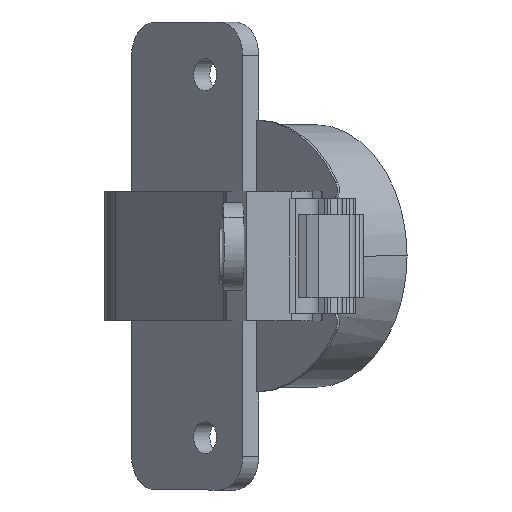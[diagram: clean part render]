
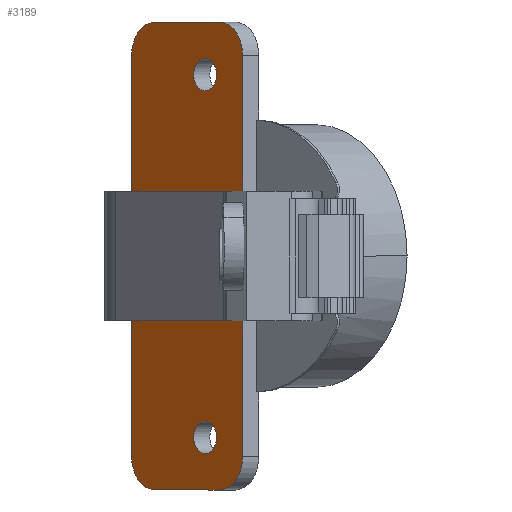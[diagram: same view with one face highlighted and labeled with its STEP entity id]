
A CAD part, left-side view. The second image highlights one B-rep face of the part: STEP entity #3189.
In plain terms, the highlighted planar face has unit normal (-0.701, 0.713, 0).
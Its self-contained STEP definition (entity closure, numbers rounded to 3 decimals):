
#7 = VERTEX_POINT ( 'NONE', #1892 ) ;
#44 = EDGE_LOOP ( 'NONE', ( #719, #1108 ) ) ;
#47 = EDGE_CURVE ( 'NONE', #460, #3172, #1304, .T. ) ;
#201 = CIRCLE ( 'NONE', #3454, 4.446 ) ;
#254 = DIRECTION ( 'NONE',  ( -0.701, 0.713, 0. ) ) ;
#268 = FACE_BOUND ( 'NONE', #3042, .T. ) ;
#304 = CARTESIAN_POINT ( 'NONE',  ( 13.393, 4.064, -26.536 ) ) ;
#316 = VERTEX_POINT ( 'NONE', #3168 ) ;
#332 = LINE ( 'NONE', #979, #3170 ) ;
#339 = DIRECTION ( 'NONE',  ( -0.713, -0.701, 0. ) ) ;
#364 = CARTESIAN_POINT ( 'NONE',  ( 4.552, -4.629, 30.982 ) ) ;
#366 = EDGE_CURVE ( 'NONE', #3474, #2059, #1860, .T. ) ;
#385 = VERTEX_POINT ( 'NONE', #3161 ) ;
#397 = CARTESIAN_POINT ( 'NONE',  ( 13.393, 4.064, 30.982 ) ) ;
#406 = VECTOR ( 'NONE', #3289, 1000. ) ;
#433 = DIRECTION ( 'NONE',  ( 0.713, 0.701, 0. ) ) ;
#438 = DIRECTION ( 'NONE',  ( -0.713, -0.701, 0. ) ) ;
#440 = AXIS2_PLACEMENT_3D ( 'NONE', #4291, #1229, #3936 ) ;
#460 = VERTEX_POINT ( 'NONE', #906 ) ;
#563 = AXIS2_PLACEMENT_3D ( 'NONE', #3818, #1773, #3772 ) ;
#569 = LINE ( 'NONE', #2668, #406 ) ;
#587 = ORIENTED_EDGE ( 'NONE', *, *, #1434, .T. ) ;
#604 = CARTESIAN_POINT ( 'NONE',  ( 3.84, -5.33, -8.6 ) ) ;
#637 = CIRCLE ( 'NONE', #563, 2.15 ) ;
#694 = VERTEX_POINT ( 'NONE', #1640 ) ;
#706 = ORIENTED_EDGE ( 'NONE', *, *, #871, .T. ) ;
#719 = ORIENTED_EDGE ( 'NONE', *, *, #47, .F. ) ;
#803 = LINE ( 'NONE', #1152, #3461 ) ;
#848 = CIRCLE ( 'NONE', #1492, 4.446 ) ;
#849 = CARTESIAN_POINT ( 'NONE',  ( 10.223, 0.947, 8.6 ) ) ;
#871 = EDGE_CURVE ( 'NONE', #1675, #316, #3345, .T. ) ;
#890 = VECTOR ( 'NONE', #3236, 1000. ) ;
#906 = CARTESIAN_POINT ( 'NONE',  ( 15.273, 5.913, 26.15 ) ) ;
#959 = CARTESIAN_POINT ( 'NONE',  ( 22.002, 12.529, 26.536 ) ) ;
#979 = CARTESIAN_POINT ( 'NONE',  ( 10.223, 0.947, 0. ) ) ;
#1010 = ORIENTED_EDGE ( 'NONE', *, *, #3899, .F. ) ;
#1028 = DIRECTION ( 'NONE',  ( 0., 0., 1. ) ) ;
#1034 = DIRECTION ( 'NONE',  ( -0.713, -0.701, 0. ) ) ;
#1096 = ORIENTED_EDGE ( 'NONE', *, *, #4043, .F. ) ;
#1108 = ORIENTED_EDGE ( 'NONE', *, *, #2951, .F. ) ;
#1152 = CARTESIAN_POINT ( 'NONE',  ( 21.12, 11.662, 34.339 ) ) ;
#1180 = DIRECTION ( 'NONE',  ( -0.701, 0.713, 0. ) ) ;
#1229 = DIRECTION ( 'NONE',  ( -0.701, 0.713, 0. ) ) ;
#1301 = EDGE_LOOP ( 'NONE', ( #1804, #1543, #3717, #1653, #3841, #706, #1096, #2605, #3919, #3388, #587, #3542 ) ) ;
#1304 = CIRCLE ( 'NONE', #440, 2.15 ) ;
#1339 = AXIS2_PLACEMENT_3D ( 'NONE', #3457, #3780, #2019 ) ;
#1434 = EDGE_CURVE ( 'NONE', #3699, #3434, #3193, .T. ) ;
#1492 = AXIS2_PLACEMENT_3D ( 'NONE', #1826, #1798, #1731 ) ;
#1515 = EDGE_CURVE ( 'NONE', #3434, #7, #2320, .T. ) ;
#1530 = CARTESIAN_POINT ( 'NONE',  ( 15.273, 5.913, -24. ) ) ;
#1543 = ORIENTED_EDGE ( 'NONE', *, *, #2135, .T. ) ;
#1584 = CARTESIAN_POINT ( 'NONE',  ( 10.223, 0.947, 0. ) ) ;
#1607 = DIRECTION ( 'NONE',  ( -0.713, -0.701, 0. ) ) ;
#1639 = VERTEX_POINT ( 'NONE', #397 ) ;
#1640 = CARTESIAN_POINT ( 'NONE',  ( 15.273, 5.913, -21.85 ) ) ;
#1653 = ORIENTED_EDGE ( 'NONE', *, *, #4098, .T. ) ;
#1675 = VERTEX_POINT ( 'NONE', #2430 ) ;
#1731 = DIRECTION ( 'NONE',  ( -0.713, -0.701, 0. ) ) ;
#1768 = CARTESIAN_POINT ( 'NONE',  ( 22.002, 12.529, -30.982 ) ) ;
#1773 = DIRECTION ( 'NONE',  ( -0.701, 0.713, 0. ) ) ;
#1774 = VERTEX_POINT ( 'NONE', #849 ) ;
#1798 = DIRECTION ( 'NONE',  ( -0.701, 0.713, 0. ) ) ;
#1804 = ORIENTED_EDGE ( 'NONE', *, *, #2185, .F. ) ;
#1826 = CARTESIAN_POINT ( 'NONE',  ( 13.393, 4.064, -26.536 ) ) ;
#1860 = LINE ( 'NONE', #2444, #3975 ) ;
#1871 = CARTESIAN_POINT ( 'NONE',  ( 15.273, 5.913, -24. ) ) ;
#1882 = DIRECTION ( 'NONE',  ( -0.713, -0.701, 0. ) ) ;
#1892 = CARTESIAN_POINT ( 'NONE',  ( 21.12, 11.662, -8.6 ) ) ;
#1951 = FACE_BOUND ( 'NONE', #44, .T. ) ;
#2007 = DIRECTION ( 'NONE',  ( 0., 0., 1. ) ) ;
#2019 = DIRECTION ( 'NONE',  ( -0.713, -0.701, 0. ) ) ;
#2029 = CIRCLE ( 'NONE', #4143, 2.15 ) ;
#2059 = VERTEX_POINT ( 'NONE', #1768 ) ;
#2135 = EDGE_CURVE ( 'NONE', #385, #1774, #4061, .T. ) ;
#2185 = EDGE_CURVE ( 'NONE', #385, #7, #803, .T. ) ;
#2226 = CARTESIAN_POINT ( 'NONE',  ( 13.393, 4.064, -30.982 ) ) ;
#2267 = CARTESIAN_POINT ( 'NONE',  ( 22.002, 12.529, -26.536 ) ) ;
#2320 = LINE ( 'NONE', #604, #3143 ) ;
#2337 = PLANE ( 'NONE',  #2940 ) ;
#2341 = DIRECTION ( 'NONE',  ( 0.713, 0.701, 0. ) ) ;
#2363 = EDGE_CURVE ( 'NONE', #1675, #1639, #2609, .T. ) ;
#2386 = EDGE_CURVE ( 'NONE', #3351, #2059, #201, .T. ) ;
#2395 = CIRCLE ( 'NONE', #3874, 2.15 ) ;
#2430 = CARTESIAN_POINT ( 'NONE',  ( 22.002, 12.529, 30.982 ) ) ;
#2444 = CARTESIAN_POINT ( 'NONE',  ( 4.552, -4.629, -30.982 ) ) ;
#2492 = CARTESIAN_POINT ( 'NONE',  ( 10.223, 0.947, -8.6 ) ) ;
#2544 = DIRECTION ( 'NONE',  ( -0.713, -0.701, 0. ) ) ;
#2559 = VERTEX_POINT ( 'NONE', #4183 ) ;
#2587 = DIRECTION ( 'NONE',  ( -0.701, 0.713, 0. ) ) ;
#2605 = ORIENTED_EDGE ( 'NONE', *, *, #2386, .T. ) ;
#2609 = LINE ( 'NONE', #364, #2895 ) ;
#2668 = CARTESIAN_POINT ( 'NONE',  ( 25.171, 15.646, 0. ) ) ;
#2831 = DIRECTION ( 'NONE',  ( 0., 0., -1. ) ) ;
#2837 = EDGE_CURVE ( 'NONE', #1774, #2559, #332, .T. ) ;
#2852 = AXIS2_PLACEMENT_3D ( 'NONE', #959, #254, #1607 ) ;
#2895 = VECTOR ( 'NONE', #339, 1000. ) ;
#2910 = DIRECTION ( 'NONE',  ( -0.701, 0.713, 0. ) ) ;
#2938 = EDGE_CURVE ( 'NONE', #3474, #3699, #848, .T. ) ;
#2940 = AXIS2_PLACEMENT_3D ( 'NONE', #304, #4306, #2007 ) ;
#2951 = EDGE_CURVE ( 'NONE', #3172, #460, #637, .T. ) ;
#3041 = EDGE_CURVE ( 'NONE', #3547, #694, #2395, .T. ) ;
#3042 = EDGE_LOOP ( 'NONE', ( #3624, #1010 ) ) ;
#3143 = VECTOR ( 'NONE', #2341, 1000. ) ;
#3161 = CARTESIAN_POINT ( 'NONE',  ( 21.12, 11.662, 8.6 ) ) ;
#3168 = CARTESIAN_POINT ( 'NONE',  ( 25.171, 15.646, 26.536 ) ) ;
#3170 = VECTOR ( 'NONE', #1028, 1000. ) ;
#3172 = VERTEX_POINT ( 'NONE', #3334 ) ;
#3184 = VECTOR ( 'NONE', #438, 1000. ) ;
#3189 = ADVANCED_FACE ( 'NONE', ( #4350, #1951, #268 ), #2337, .T. ) ;
#3193 = LINE ( 'NONE', #1584, #890 ) ;
#3236 = DIRECTION ( 'NONE',  ( 0., 0., 1. ) ) ;
#3289 = DIRECTION ( 'NONE',  ( 0., 0., 1. ) ) ;
#3334 = CARTESIAN_POINT ( 'NONE',  ( 15.273, 5.913, 21.85 ) ) ;
#3345 = CIRCLE ( 'NONE', #2852, 4.446 ) ;
#3351 = VERTEX_POINT ( 'NONE', #4105 ) ;
#3388 = ORIENTED_EDGE ( 'NONE', *, *, #2938, .T. ) ;
#3402 = CARTESIAN_POINT ( 'NONE',  ( 5.369, -3.826, 8.6 ) ) ;
#3434 = VERTEX_POINT ( 'NONE', #2492 ) ;
#3441 = CARTESIAN_POINT ( 'NONE',  ( 10.223, 0.947, -26.536 ) ) ;
#3454 = AXIS2_PLACEMENT_3D ( 'NONE', #2267, #2587, #1034 ) ;
#3457 = CARTESIAN_POINT ( 'NONE',  ( 13.393, 4.064, 26.536 ) ) ;
#3461 = VECTOR ( 'NONE', #2831, 1000. ) ;
#3474 = VERTEX_POINT ( 'NONE', #2226 ) ;
#3542 = ORIENTED_EDGE ( 'NONE', *, *, #1515, .T. ) ;
#3547 = VERTEX_POINT ( 'NONE', #3974 ) ;
#3624 = ORIENTED_EDGE ( 'NONE', *, *, #3041, .F. ) ;
#3699 = VERTEX_POINT ( 'NONE', #3441 ) ;
#3717 = ORIENTED_EDGE ( 'NONE', *, *, #2837, .T. ) ;
#3772 = DIRECTION ( 'NONE',  ( -0.713, -0.701, 0. ) ) ;
#3780 = DIRECTION ( 'NONE',  ( -0.701, 0.713, 0. ) ) ;
#3818 = CARTESIAN_POINT ( 'NONE',  ( 15.273, 5.913, 24. ) ) ;
#3841 = ORIENTED_EDGE ( 'NONE', *, *, #2363, .F. ) ;
#3874 = AXIS2_PLACEMENT_3D ( 'NONE', #1871, #1180, #2544 ) ;
#3899 = EDGE_CURVE ( 'NONE', #694, #3547, #2029, .T. ) ;
#3919 = ORIENTED_EDGE ( 'NONE', *, *, #366, .F. ) ;
#3936 = DIRECTION ( 'NONE',  ( -0.713, -0.701, 0. ) ) ;
#3974 = CARTESIAN_POINT ( 'NONE',  ( 15.273, 5.913, -26.15 ) ) ;
#3975 = VECTOR ( 'NONE', #433, 1000. ) ;
#4043 = EDGE_CURVE ( 'NONE', #3351, #316, #569, .T. ) ;
#4061 = LINE ( 'NONE', #3402, #3184 ) ;
#4098 = EDGE_CURVE ( 'NONE', #2559, #1639, #4360, .T. ) ;
#4105 = CARTESIAN_POINT ( 'NONE',  ( 25.171, 15.646, -26.536 ) ) ;
#4143 = AXIS2_PLACEMENT_3D ( 'NONE', #1530, #2910, #1882 ) ;
#4183 = CARTESIAN_POINT ( 'NONE',  ( 10.223, 0.947, 26.536 ) ) ;
#4291 = CARTESIAN_POINT ( 'NONE',  ( 15.273, 5.913, 24. ) ) ;
#4306 = DIRECTION ( 'NONE',  ( -0.701, 0.713, 0. ) ) ;
#4350 = FACE_OUTER_BOUND ( 'NONE', #1301, .T. ) ;
#4360 = CIRCLE ( 'NONE', #1339, 4.446 ) ;
